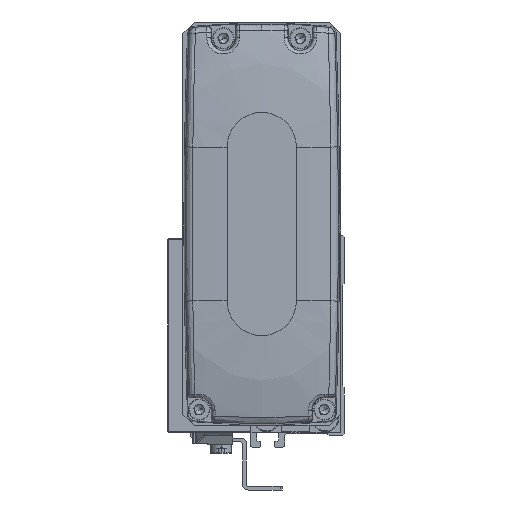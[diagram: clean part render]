
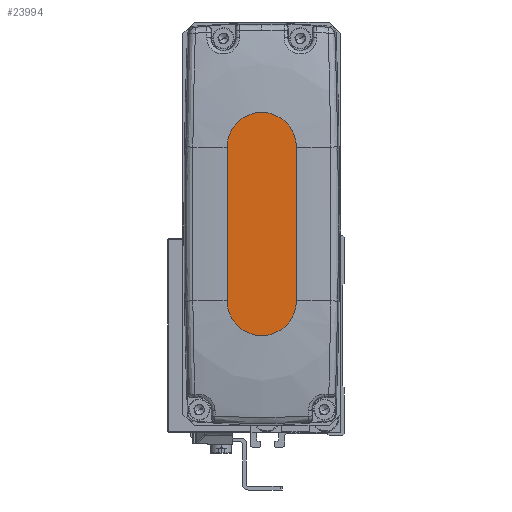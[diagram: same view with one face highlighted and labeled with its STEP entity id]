
A CAD part, left-side view. The second image highlights one B-rep face of the part: STEP entity #23994.
In plain terms, the highlighted planar face has unit normal (-1, 0, 0).
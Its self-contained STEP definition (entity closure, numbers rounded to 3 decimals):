
#1202 = CARTESIAN_POINT ( 'NONE',  ( -57., 30.5, 9. ) ) ;
#1406 = DIRECTION ( 'NONE',  ( 0., 1., 0. ) ) ;
#1633 = PLANE ( 'NONE',  #37681 ) ;
#2058 = EDGE_CURVE ( 'NONE', #32094, #28351, #46798, .T. ) ;
#3527 = CIRCLE ( 'NONE', #9617, 9. ) ;
#3769 = DIRECTION ( 'NONE',  ( 0., 0., 1. ) ) ;
#4699 = CARTESIAN_POINT ( 'NONE',  ( -57., 30.5, 49. ) ) ;
#6828 = DIRECTION ( 'NONE',  ( 0., 0., 1. ) ) ;
#8589 = VERTEX_POINT ( 'NONE', #1202 ) ;
#9217 = FACE_OUTER_BOUND ( 'NONE', #43875, .T. ) ;
#9617 = AXIS2_PLACEMENT_3D ( 'NONE', #24283, #31872, #17142 ) ;
#13401 = VECTOR ( 'NONE', #3769, 1000. ) ;
#13492 = ORIENTED_EDGE ( 'NONE', *, *, #28713, .F. ) ;
#13823 = CARTESIAN_POINT ( 'NONE',  ( -57., 12.5, 49. ) ) ;
#16053 = CARTESIAN_POINT ( 'NONE',  ( -57., 12.5, 9. ) ) ;
#17021 = VERTEX_POINT ( 'NONE', #4699 ) ;
#17142 = DIRECTION ( 'NONE',  ( 0., -1., 0. ) ) ;
#17179 = VECTOR ( 'NONE', #35923, 1000. ) ;
#23994 = ADVANCED_FACE ( 'NONE', ( #9217 ), #1633, .F. ) ;
#24283 = CARTESIAN_POINT ( 'NONE',  ( -57., 21.5, 9. ) ) ;
#25012 = ORIENTED_EDGE ( 'NONE', *, *, #31031, .F. ) ;
#25109 = CARTESIAN_POINT ( 'NONE',  ( -57., 21.5, 49. ) ) ;
#27805 = CARTESIAN_POINT ( 'NONE',  ( -57., 12.5, 49. ) ) ;
#28351 = VERTEX_POINT ( 'NONE', #16053 ) ;
#28713 = EDGE_CURVE ( 'NONE', #8589, #17021, #43896, .T. ) ;
#28912 = DIRECTION ( 'NONE',  ( 1., 0., 0. ) ) ;
#31031 = EDGE_CURVE ( 'NONE', #17021, #32094, #46298, .T. ) ;
#31872 = DIRECTION ( 'NONE',  ( 1., 0., 0. ) ) ;
#32094 = VERTEX_POINT ( 'NONE', #27805 ) ;
#32574 = ORIENTED_EDGE ( 'NONE', *, *, #35037, .F. ) ;
#34386 = DIRECTION ( 'NONE',  ( 1., 0., 0. ) ) ;
#35037 = EDGE_CURVE ( 'NONE', #28351, #8589, #3527, .T. ) ;
#35923 = DIRECTION ( 'NONE',  ( 0., 0., -1. ) ) ;
#36317 = CARTESIAN_POINT ( 'NONE',  ( -57., 30.5, 9. ) ) ;
#37681 = AXIS2_PLACEMENT_3D ( 'NONE', #41267, #34386, #1406 ) ;
#41267 = CARTESIAN_POINT ( 'NONE',  ( -57., -625.266, -37.766 ) ) ;
#43273 = AXIS2_PLACEMENT_3D ( 'NONE', #25109, #28912, #6828 ) ;
#43875 = EDGE_LOOP ( 'NONE', ( #25012, #13492, #32574, #43983 ) ) ;
#43896 = LINE ( 'NONE', #36317, #13401 ) ;
#43983 = ORIENTED_EDGE ( 'NONE', *, *, #2058, .F. ) ;
#46298 = CIRCLE ( 'NONE', #43273, 9. ) ;
#46798 = LINE ( 'NONE', #13823, #17179 ) ;
